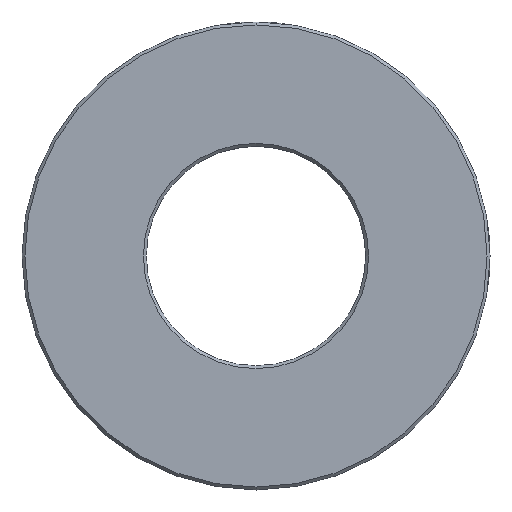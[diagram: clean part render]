
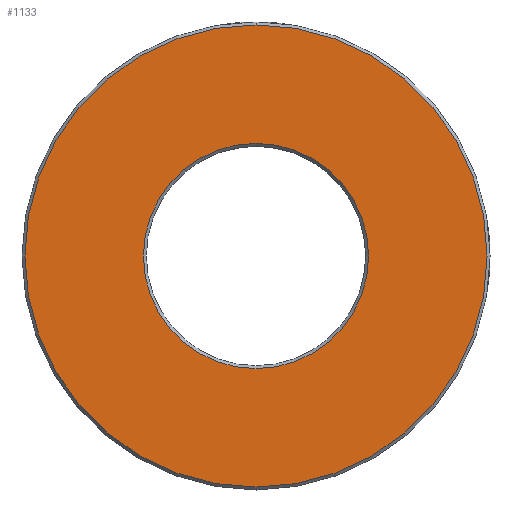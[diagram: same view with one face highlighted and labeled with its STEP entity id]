
A CAD part, front view. The second image highlights one B-rep face of the part: STEP entity #1133.
In plain terms, the highlighted planar face has unit normal (0, -1, 0).
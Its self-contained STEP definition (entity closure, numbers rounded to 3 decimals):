
#88 = EDGE_LOOP ( 'NONE', ( #2740, #4146 ) ) ;
#120 = FACE_BOUND ( 'NONE', #1333, .T. ) ;
#145 = VERTEX_POINT ( 'NONE', #4235 ) ;
#344 = CARTESIAN_POINT ( 'NONE',  ( 0., 0., 0. ) ) ;
#387 = DIRECTION ( 'NONE',  ( 0., 0., 1. ) ) ;
#577 = AXIS2_PLACEMENT_3D ( 'NONE', #1839, #3134, #2434 ) ;
#668 = AXIS2_PLACEMENT_3D ( 'NONE', #3345, #706, #387 ) ;
#706 = DIRECTION ( 'NONE',  ( 0., -1., 0. ) ) ;
#728 = CIRCLE ( 'NONE', #668, 15.8 ) ;
#1133 = ADVANCED_FACE ( 'NONE', ( #120, #2801 ), #1499, .F. ) ;
#1151 = DIRECTION ( 'NONE',  ( 0., 0., 1. ) ) ;
#1235 = CIRCLE ( 'NONE', #3514, 15.8 ) ;
#1290 = AXIS2_PLACEMENT_3D ( 'NONE', #344, #2887, #3384 ) ;
#1333 = EDGE_LOOP ( 'NONE', ( #3771, #2337 ) ) ;
#1499 = PLANE ( 'NONE',  #2279 ) ;
#1566 = CIRCLE ( 'NONE', #1290, 7.7 ) ;
#1825 = VERTEX_POINT ( 'NONE', #2763 ) ;
#1839 = CARTESIAN_POINT ( 'NONE',  ( 0., 0., 0. ) ) ;
#1912 = VERTEX_POINT ( 'NONE', #3944 ) ;
#2050 = CARTESIAN_POINT ( 'NONE',  ( 0., 0., -7.7 ) ) ;
#2121 = EDGE_CURVE ( 'NONE', #1912, #145, #728, .T. ) ;
#2279 = AXIS2_PLACEMENT_3D ( 'NONE', #3813, #2473, #1151 ) ;
#2337 = ORIENTED_EDGE ( 'NONE', *, *, #2395, .T. ) ;
#2395 = EDGE_CURVE ( 'NONE', #1825, #2844, #1566, .T. ) ;
#2434 = DIRECTION ( 'NONE',  ( 0., 0., 1. ) ) ;
#2473 = DIRECTION ( 'NONE',  ( 0., 1., 0. ) ) ;
#2507 = CARTESIAN_POINT ( 'NONE',  ( 0., 0., 0. ) ) ;
#2657 = EDGE_CURVE ( 'NONE', #2844, #1825, #3746, .T. ) ;
#2740 = ORIENTED_EDGE ( 'NONE', *, *, #4241, .T. ) ;
#2763 = CARTESIAN_POINT ( 'NONE',  ( 0., 0., 7.7 ) ) ;
#2801 = FACE_OUTER_BOUND ( 'NONE', #88, .T. ) ;
#2844 = VERTEX_POINT ( 'NONE', #2050 ) ;
#2887 = DIRECTION ( 'NONE',  ( 0., 1., 0. ) ) ;
#3132 = DIRECTION ( 'NONE',  ( 0., 0., 1. ) ) ;
#3134 = DIRECTION ( 'NONE',  ( 0., 1., 0. ) ) ;
#3345 = CARTESIAN_POINT ( 'NONE',  ( 0., 0., 0. ) ) ;
#3384 = DIRECTION ( 'NONE',  ( 0., 0., 1. ) ) ;
#3514 = AXIS2_PLACEMENT_3D ( 'NONE', #2507, #4089, #3132 ) ;
#3746 = CIRCLE ( 'NONE', #577, 7.7 ) ;
#3771 = ORIENTED_EDGE ( 'NONE', *, *, #2657, .T. ) ;
#3813 = CARTESIAN_POINT ( 'NONE',  ( 0., 0., 0. ) ) ;
#3944 = CARTESIAN_POINT ( 'NONE',  ( 0., 0., -15.8 ) ) ;
#4089 = DIRECTION ( 'NONE',  ( 0., -1., 0. ) ) ;
#4146 = ORIENTED_EDGE ( 'NONE', *, *, #2121, .T. ) ;
#4235 = CARTESIAN_POINT ( 'NONE',  ( 0., 0., 15.8 ) ) ;
#4241 = EDGE_CURVE ( 'NONE', #145, #1912, #1235, .T. ) ;
